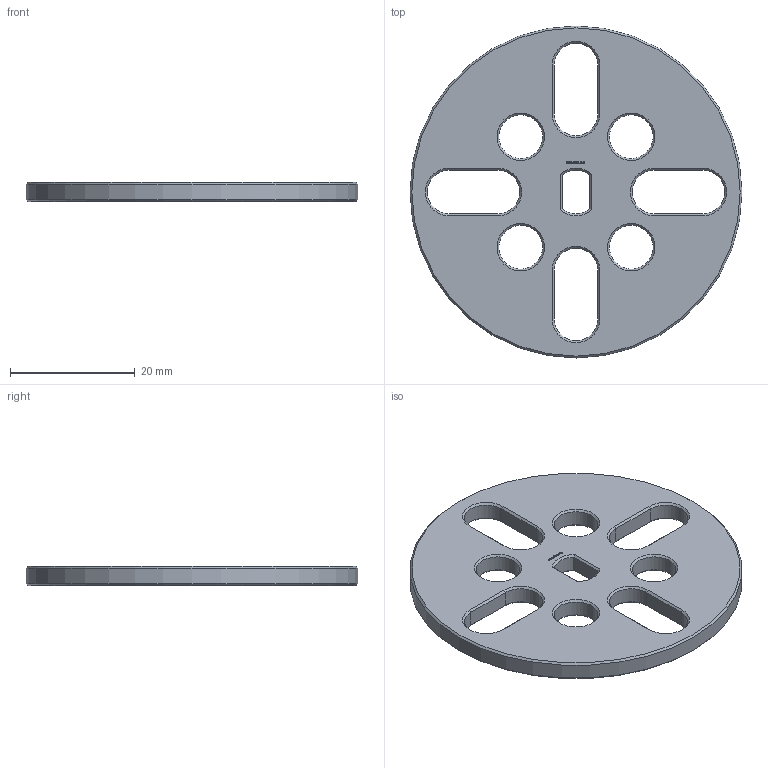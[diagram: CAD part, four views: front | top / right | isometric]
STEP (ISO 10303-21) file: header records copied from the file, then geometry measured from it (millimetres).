
FILE_DESCRIPTION(/* description */ (''),/* implementation_level */ '2;1');
FILE_NAME(/* name */ '/Users/paulokiefe/Desktop/STEMFIE/Fasteners/Washers/Fixed/Washer WSR FXD BU0.25x4.25 - SPN-WSR-0014 v1.step',/* time_stamp */ '2020-09-27T23:16:50+02:00',/* author */ (''),/* organization */ (''),/* preprocessor_version */ 'ST-DEVELOPER v18.1',/* originating_system */ 'Autodesk Translation Framework v9.3.0.1241',/* authorisation */ '');
FILE_SCHEMA (('AUTOMOTIVE_DESIGN { 1 0 10303 214 3 1 1 }'));
Length unit declared in the file: millimetre
Products named in the file (1): Washer WSR FXD BU0.25x4.25 - SPN-WSR-0014
Bounding box: 53.12 x 53.12 x 3.12 mm (x, y, z)
Volume: 5152.9 mm3; surface area: 4506 mm2
Topology: 1 solids, 1 shells, 321 faces, 871 edges, 564 vertices
Faces by surface type: plane 276, cone 30, cylinder 15
Full cylindrical faces by diameter (mm): 7 x4, 53.125 x1
Entity records: 9962 total; most frequent: CARTESIAN_POINT 1781, ORIENTED_EDGE 1742, DIRECTION 1567, EDGE_CURVE 871, LINE 803, VECTOR 803, VERTEX_POINT 564, AXIS2_PLACEMENT_3D 382
